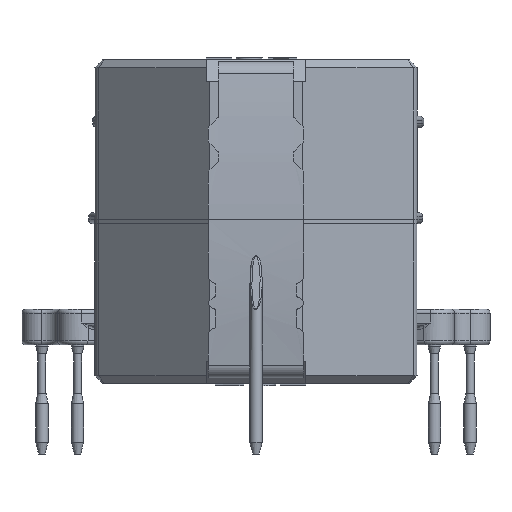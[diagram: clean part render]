
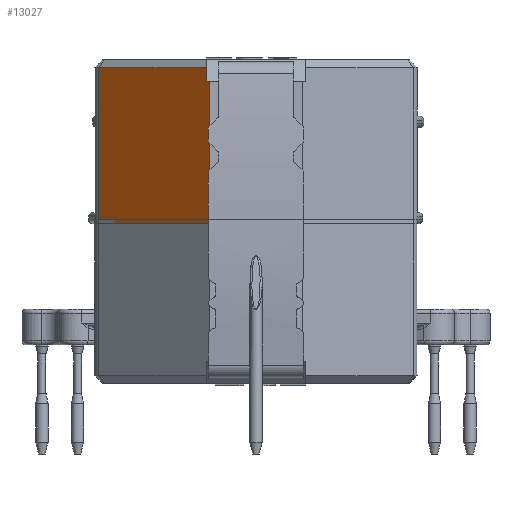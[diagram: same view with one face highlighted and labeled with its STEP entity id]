
A CAD part, front view. The second image highlights one B-rep face of the part: STEP entity #13027.
In plain terms, the highlighted planar face has unit normal (-0.707, -0.707, 0) as drawn and (0.707, -0.707, 0) by its records, which use the part's own axes.
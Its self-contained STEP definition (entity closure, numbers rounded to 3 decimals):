
#11692=CARTESIAN_POINT('',(11.6,-2.33,0.0));
#11693=VERTEX_POINT('',#11692);
#11700=CARTESIAN_POINT('',(6.01,-7.92,0.0));
#11701=VERTEX_POINT('',#11700);
#11702=CARTESIAN_POINT('',(11.6,-2.33,0.0));
#11703=DIRECTION('',(-0.707,-0.707,0.0));
#11704=VECTOR('',#11703,7.905);
#11705=LINE('',#11702,#11704);
#11706=EDGE_CURVE('',#11693,#11701,#11705,.T.);
#12778=CARTESIAN_POINT('',(11.43,-2.5,7.85));
#12779=VERTEX_POINT('',#12778);
#12787=CARTESIAN_POINT('',(6.01,-7.92,7.85));
#12788=VERTEX_POINT('',#12787);
#12795=CARTESIAN_POINT('',(6.01,-7.92,7.85));
#12796=DIRECTION('',(0.707,0.707,0.0));
#12797=VECTOR('',#12796,7.664);
#12798=LINE('',#12795,#12797);
#12799=EDGE_CURVE('',#12788,#12779,#12798,.T.);
#12990=CARTESIAN_POINT('',(11.6,-2.33,0.0));
#12991=DIRECTION('',(0.707,-0.707,0.0));
#12992=DIRECTION('',(0.0,0.0,-1.0));
#12993=AXIS2_PLACEMENT_3D('',#12990,#12991,#12992);
#12994=PLANE('',#12993);
#12995=ORIENTED_EDGE('',*,*,#12799,.F.);
#12996=CARTESIAN_POINT('',(6.01,-7.92,0.0));
#12997=DIRECTION('',(0.0,0.0,1.0));
#12998=VECTOR('',#12997,7.85);
#12999=LINE('',#12996,#12998);
#13000=EDGE_CURVE('',#11701,#12788,#12999,.T.);
#13001=ORIENTED_EDGE('',*,*,#13000,.F.);
#13002=ORIENTED_EDGE('',*,*,#11706,.F.);
#13003=CARTESIAN_POINT('',(11.6,-2.33,7.15));
#13004=VERTEX_POINT('',#13003);
#13005=CARTESIAN_POINT('',(11.6,-2.33,0.0));
#13006=DIRECTION('',(0.0,0.0,1.0));
#13007=VECTOR('',#13006,7.15);
#13008=LINE('',#13005,#13007);
#13009=EDGE_CURVE('',#11693,#13004,#13008,.T.);
#13010=ORIENTED_EDGE('',*,*,#13009,.T.);
#13011=CARTESIAN_POINT('',(11.43,-2.5,7.15));
#13012=VERTEX_POINT('',#13011);
#13013=CARTESIAN_POINT('',(11.6,-2.33,7.15));
#13014=DIRECTION('',(-0.707,-0.707,0.0));
#13015=VECTOR('',#13014,0.24);
#13016=LINE('',#13013,#13015);
#13017=EDGE_CURVE('',#13004,#13012,#13016,.T.);
#13018=ORIENTED_EDGE('',*,*,#13017,.T.);
#13019=CARTESIAN_POINT('',(11.43,-2.5,7.15));
#13020=DIRECTION('',(0.0,0.0,1.0));
#13021=VECTOR('',#13020,0.7);
#13022=LINE('',#13019,#13021);
#13023=EDGE_CURVE('',#13012,#12779,#13022,.T.);
#13024=ORIENTED_EDGE('',*,*,#13023,.T.);
#13025=EDGE_LOOP('',(#12995,#13001,#13002,#13010,#13018,#13024));
#13026=FACE_OUTER_BOUND('',#13025,.T.);
#13027=ADVANCED_FACE('',(#13026),#12994,.T.);
